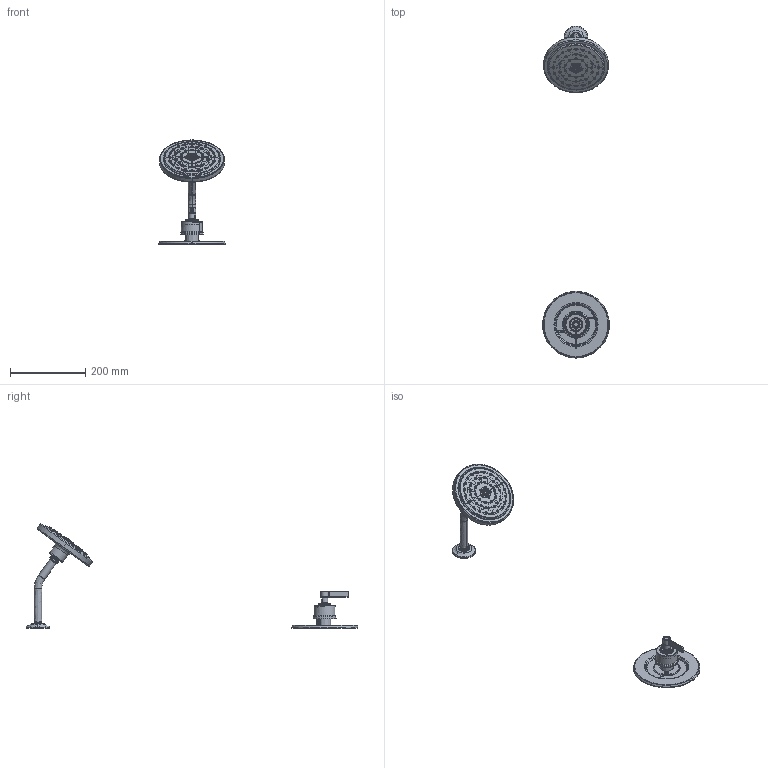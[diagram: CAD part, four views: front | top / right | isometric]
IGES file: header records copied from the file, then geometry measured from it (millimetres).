
Start section:  PTC IGES file: sku_ts372.igs
Global section: file name: sku_ts372.igs; native system: Pro/ENGINEER by Parametric Technology Corporation; preprocessor: 2006460; author: 9dutterb; organization: Unknown; date: 20071031.120200; units: inch
Bounding box: 177.42 x 882.45 x 276.65 mm (x, y, z)
Surface area: 232360.2 mm2 (no closed solid volume)
Topology: 0 solids, 0 shells, 625 faces, 4332 edges, 4330 vertices
Faces by surface type: revolution 478, bspline 147
